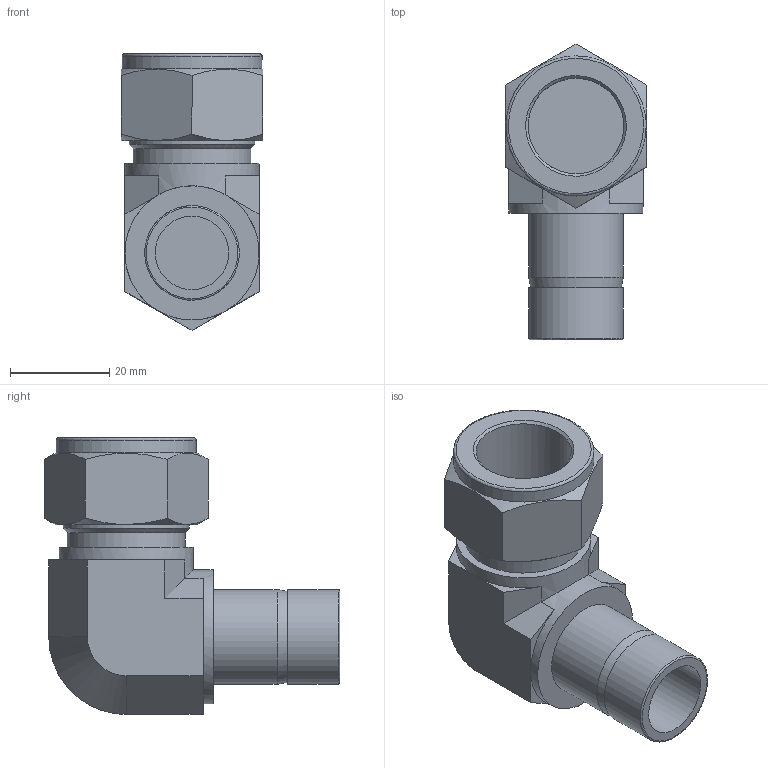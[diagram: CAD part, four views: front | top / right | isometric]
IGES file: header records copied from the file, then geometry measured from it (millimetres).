
Global section: file name: SAE-12; native system: Autodesk Inventor 2018; preprocessor: unknown; author: user; date: 20180224.101328; units: millimetre
Bounding box: 28.57 x 59.5 x 55.7 mm (x, y, z)
Volume: 30814.1 mm3; surface area: 11099.5 mm2
Topology: 1 solids, 1 shells, 52 faces, 131 edges, 87 vertices
Faces by surface type: bspline 52
